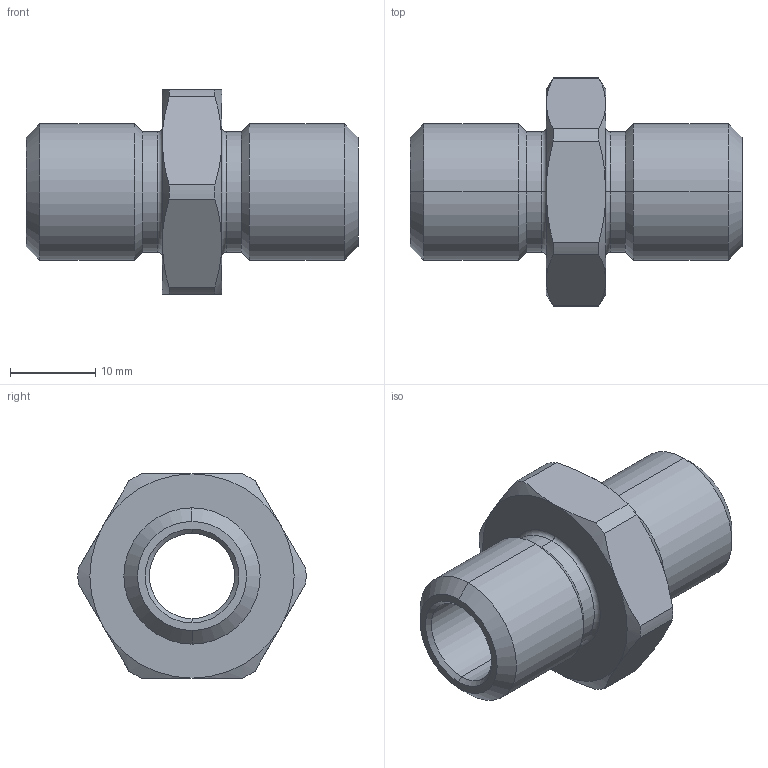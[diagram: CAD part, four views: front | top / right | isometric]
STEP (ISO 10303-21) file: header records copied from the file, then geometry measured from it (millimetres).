
FILE_DESCRIPTION (( 'STEP AP203' ), '1' );
FILE_NAME ('ﾍﾂﾍ01Mﾍ.STEP', '2019-06-05T11:17:18', ( '' ), ( '' ), 'SwSTEP 2.0', 'SolidWorks 2012', '' );
FILE_SCHEMA (( 'CONFIG_CONTROL_DESIGN' ));
Length unit declared in the file: millimetre
Products named in the file (1): ﾍﾂﾍ01Mﾍ
Bounding box: 39 x 26.79 x 24 mm (x, y, z)
Volume: 6284.9 mm3; surface area: 4292.1 mm2
Topology: 1 solids, 1 shells, 60 faces, 130 edges, 76 vertices
Faces by surface type: cone 24, cylinder 20, plane 12, torus 4
Entity records: 1811 total; most frequent: CARTESIAN_POINT 419, DIRECTION 296, ORIENTED_EDGE 260, EDGE_CURVE 130, AXIS2_PLACEMENT_3D 129, VERTEX_POINT 76, CIRCLE 68, EDGE_LOOP 66
